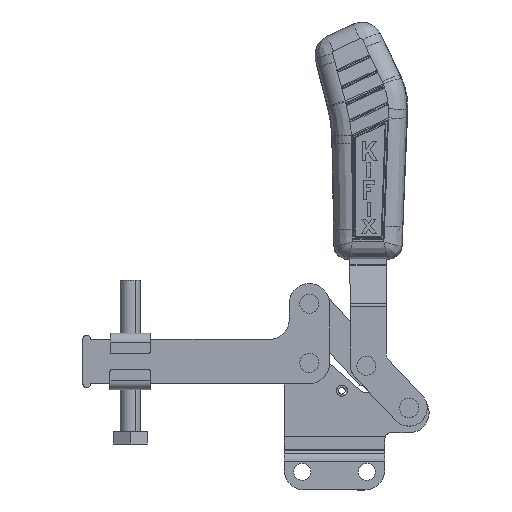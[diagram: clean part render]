
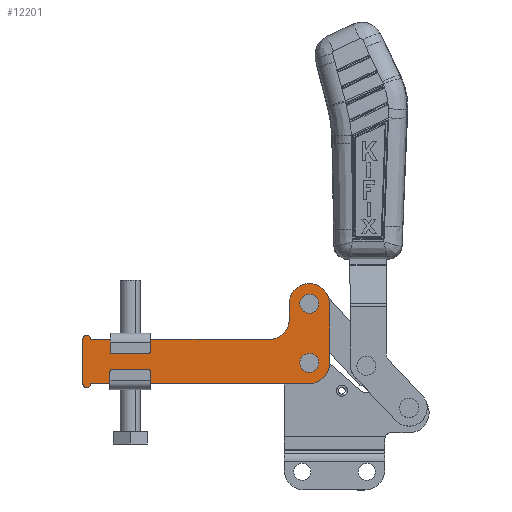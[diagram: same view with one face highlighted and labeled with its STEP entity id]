
A CAD part, top view. The second image highlights one B-rep face of the part: STEP entity #12201.
In plain terms, the highlighted planar face has unit normal (0, 0, 1).
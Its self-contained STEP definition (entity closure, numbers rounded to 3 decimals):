
#18 = VERTEX_POINT ( 'NONE', #25642 ) ;
#53 = DIRECTION ( 'NONE',  ( 1., 0., 0. ) ) ;
#94 = ORIENTED_EDGE ( 'NONE', *, *, #15367, .T. ) ;
#234 = EDGE_CURVE ( 'NONE', #16773, #25260, #25086, .T. ) ;
#1081 = EDGE_CURVE ( 'NONE', #2474, #13742, #24422, .T. ) ;
#1086 = VERTEX_POINT ( 'NONE', #13204 ) ;
#1112 = DIRECTION ( 'NONE',  ( -1., 0., 0. ) ) ;
#1170 = CARTESIAN_POINT ( 'NONE',  ( 79.5, -1., 0. ) ) ;
#2334 = DIRECTION ( 'NONE',  ( 0., 0., -1. ) ) ;
#2474 = VERTEX_POINT ( 'NONE', #23625 ) ;
#2840 = CARTESIAN_POINT ( 'NONE',  ( 69.5, 28.7, 0. ) ) ;
#3051 = ORIENTED_EDGE ( 'NONE', *, *, #1081, .F. ) ;
#3608 = DIRECTION ( 'NONE',  ( 0., 0., 1. ) ) ;
#4083 = AXIS2_PLACEMENT_3D ( 'NONE', #2840, #16814, #4828 ) ;
#4335 = VECTOR ( 'NONE', #13234, 1000. ) ;
#4828 = DIRECTION ( 'NONE',  ( 1., 0., 0. ) ) ;
#4859 = CARTESIAN_POINT ( 'NONE',  ( -43., -11., 0. ) ) ;
#5067 = AXIS2_PLACEMENT_3D ( 'NONE', #20661, #8648, #22686 ) ;
#5260 = AXIS2_PLACEMENT_3D ( 'NONE', #10345, #24404, #12335 ) ;
#5859 = CARTESIAN_POINT ( 'NONE',  ( 69.5, -11., 0. ) ) ;
#6230 = ORIENTED_EDGE ( 'NONE', *, *, #18577, .T. ) ;
#6334 = EDGE_CURVE ( 'NONE', #21229, #1086, #14094, .T. ) ;
#6684 = EDGE_CURVE ( 'NONE', #23781, #12890, #14397, .T. ) ;
#6852 = CIRCLE ( 'NONE', #4083, 10. ) ;
#7015 = CARTESIAN_POINT ( 'NONE',  ( 69.5, -0.7, 0. ) ) ;
#7378 = EDGE_CURVE ( 'NONE', #16561, #23781, #14368, .T. ) ;
#7942 = EDGE_CURVE ( 'NONE', #13173, #20795, #6852, .T. ) ;
#8064 = CARTESIAN_POINT ( 'NONE',  ( 49.5, 21., 0. ) ) ;
#8105 = EDGE_CURVE ( 'NONE', #18, #13173, #9668, .T. ) ;
#8648 = DIRECTION ( 'NONE',  ( 0., 0., 1. ) ) ;
#8682 = ORIENTED_EDGE ( 'NONE', *, *, #6684, .T. ) ;
#8774 = VERTEX_POINT ( 'NONE', #14568 ) ;
#8894 = DIRECTION ( 'NONE',  ( 0., 0., 1. ) ) ;
#9009 = DIRECTION ( 'NONE',  ( 1., 0., 0. ) ) ;
#9077 = EDGE_LOOP ( 'NONE', ( #3051, #17264 ) ) ;
#9375 = CARTESIAN_POINT ( 'NONE',  ( 69.5, 28.7, 0. ) ) ;
#9403 = CARTESIAN_POINT ( 'NONE',  ( 59.5, 28.7, 0. ) ) ;
#9579 = FACE_BOUND ( 'NONE', #14186, .T. ) ;
#9668 = LINE ( 'NONE', #1170, #4335 ) ;
#9767 = CARTESIAN_POINT ( 'NONE',  ( -41., 11., 0. ) ) ;
#9936 = CARTESIAN_POINT ( 'NONE',  ( 4., -11., 0. ) ) ;
#10048 = ORIENTED_EDGE ( 'NONE', *, *, #13069, .T. ) ;
#10078 = DIRECTION ( 'NONE',  ( 1., 0., 0. ) ) ;
#10171 = AXIS2_PLACEMENT_3D ( 'NONE', #9767, #23810, #11745 ) ;
#10182 = CARTESIAN_POINT ( 'NONE',  ( -39., -11., 0. ) ) ;
#10286 = PLANE ( 'NONE',  #16985 ) ;
#10345 = CARTESIAN_POINT ( 'NONE',  ( 69.5, -0.7, 0. ) ) ;
#11365 = DIRECTION ( 'NONE',  ( 1., 0., 0. ) ) ;
#11745 = DIRECTION ( 'NONE',  ( -1., 0., 0. ) ) ;
#11776 = CARTESIAN_POINT ( 'NONE',  ( 59.5, 21., 0. ) ) ;
#12201 = ADVANCED_FACE ( 'NONE', ( #9579, #14876, #25607 ), #10286, .F. ) ;
#12209 = DIRECTION ( 'NONE',  ( 0., -1., 0. ) ) ;
#12335 = DIRECTION ( 'NONE',  ( 1., 0., 0. ) ) ;
#12553 = LINE ( 'NONE', #9403, #17248 ) ;
#12590 = EDGE_CURVE ( 'NONE', #25260, #16773, #13931, .T. ) ;
#12890 = VERTEX_POINT ( 'NONE', #5859 ) ;
#12974 = VECTOR ( 'NONE', #1112, 1000. ) ;
#13069 = EDGE_CURVE ( 'NONE', #1086, #21999, #18294, .T. ) ;
#13173 = VERTEX_POINT ( 'NONE', #13523 ) ;
#13190 = AXIS2_PLACEMENT_3D ( 'NONE', #15566, #3608, #17594 ) ;
#13204 = CARTESIAN_POINT ( 'NONE',  ( 49.5, 11., 0. ) ) ;
#13234 = DIRECTION ( 'NONE',  ( 0., 1., 0. ) ) ;
#13343 = CARTESIAN_POINT ( 'NONE',  ( 65.5, -0.7, 0. ) ) ;
#13523 = CARTESIAN_POINT ( 'NONE',  ( 79.5, 28.7, 0. ) ) ;
#13565 = ORIENTED_EDGE ( 'NONE', *, *, #6334, .T. ) ;
#13742 = VERTEX_POINT ( 'NONE', #18128 ) ;
#13931 = CIRCLE ( 'NONE', #5260, 4. ) ;
#14094 = CIRCLE ( 'NONE', #22844, 10. ) ;
#14141 = EDGE_LOOP ( 'NONE', ( #94, #14412, #22333, #8682, #22097, #14209, #23124, #6230, #13565, #10048 ) ) ;
#14186 = EDGE_LOOP ( 'NONE', ( #23890, #17807 ) ) ;
#14209 = ORIENTED_EDGE ( 'NONE', *, *, #8105, .T. ) ;
#14368 = CIRCLE ( 'NONE', #5067, 2. ) ;
#14397 = LINE ( 'NONE', #9936, #23219 ) ;
#14412 = ORIENTED_EDGE ( 'NONE', *, *, #14906, .T. ) ;
#14568 = CARTESIAN_POINT ( 'NONE',  ( -43., 11., 0. ) ) ;
#14876 = FACE_BOUND ( 'NONE', #9077, .T. ) ;
#14906 = EDGE_CURVE ( 'NONE', #8774, #16561, #21175, .T. ) ;
#15367 = EDGE_CURVE ( 'NONE', #21999, #8774, #25595, .T. ) ;
#15566 = CARTESIAN_POINT ( 'NONE',  ( 69.5, 28.7, 0. ) ) ;
#15814 = VECTOR ( 'NONE', #12209, 1000. ) ;
#15825 = EDGE_CURVE ( 'NONE', #13742, #2474, #24001, .T. ) ;
#16218 = CARTESIAN_POINT ( 'NONE',  ( 2., 11., 0. ) ) ;
#16306 = DIRECTION ( 'NONE',  ( -1., 0., 0. ) ) ;
#16561 = VERTEX_POINT ( 'NONE', #4859 ) ;
#16773 = VERTEX_POINT ( 'NONE', #13343 ) ;
#16814 = DIRECTION ( 'NONE',  ( 0., 0., 1. ) ) ;
#16985 = AXIS2_PLACEMENT_3D ( 'NONE', #16218, #2334, #16306 ) ;
#17123 = AXIS2_PLACEMENT_3D ( 'NONE', #9375, #23412, #11365 ) ;
#17248 = VECTOR ( 'NONE', #25481, 1000. ) ;
#17264 = ORIENTED_EDGE ( 'NONE', *, *, #15825, .F. ) ;
#17283 = AXIS2_PLACEMENT_3D ( 'NONE', #7015, #21023, #9009 ) ;
#17594 = DIRECTION ( 'NONE',  ( 1., 0., 0. ) ) ;
#17807 = ORIENTED_EDGE ( 'NONE', *, *, #234, .F. ) ;
#18128 = CARTESIAN_POINT ( 'NONE',  ( 65.5, 28.7, 0. ) ) ;
#18197 = CARTESIAN_POINT ( 'NONE',  ( 59.5, 28.7, 0. ) ) ;
#18294 = LINE ( 'NONE', #25157, #12974 ) ;
#18577 = EDGE_CURVE ( 'NONE', #20795, #21229, #12553, .T. ) ;
#20661 = CARTESIAN_POINT ( 'NONE',  ( -41., -11., 0. ) ) ;
#20795 = VERTEX_POINT ( 'NONE', #18197 ) ;
#20893 = CARTESIAN_POINT ( 'NONE',  ( 69.5, -1., 0. ) ) ;
#21023 = DIRECTION ( 'NONE',  ( 0., 0., 1. ) ) ;
#21175 = LINE ( 'NONE', #24281, #15814 ) ;
#21229 = VERTEX_POINT ( 'NONE', #11776 ) ;
#21795 = EDGE_CURVE ( 'NONE', #12890, #18, #25100, .T. ) ;
#21999 = VERTEX_POINT ( 'NONE', #25671 ) ;
#22097 = ORIENTED_EDGE ( 'NONE', *, *, #21795, .T. ) ;
#22108 = DIRECTION ( 'NONE',  ( 0., 0., -1. ) ) ;
#22333 = ORIENTED_EDGE ( 'NONE', *, *, #7378, .T. ) ;
#22686 = DIRECTION ( 'NONE',  ( 1., 0., 0. ) ) ;
#22813 = CARTESIAN_POINT ( 'NONE',  ( 73.5, -0.7, 0. ) ) ;
#22844 = AXIS2_PLACEMENT_3D ( 'NONE', #8064, #22108, #10078 ) ;
#22932 = DIRECTION ( 'NONE',  ( 1., 0., 0. ) ) ;
#23124 = ORIENTED_EDGE ( 'NONE', *, *, #7942, .T. ) ;
#23219 = VECTOR ( 'NONE', #53, 1000. ) ;
#23412 = DIRECTION ( 'NONE',  ( 0., 0., 1. ) ) ;
#23625 = CARTESIAN_POINT ( 'NONE',  ( 73.5, 28.7, 0. ) ) ;
#23781 = VERTEX_POINT ( 'NONE', #10182 ) ;
#23810 = DIRECTION ( 'NONE',  ( 0., 0., 1. ) ) ;
#23890 = ORIENTED_EDGE ( 'NONE', *, *, #12590, .F. ) ;
#24001 = CIRCLE ( 'NONE', #13190, 4. ) ;
#24281 = CARTESIAN_POINT ( 'NONE',  ( -43., 11., 0. ) ) ;
#24404 = DIRECTION ( 'NONE',  ( 0., 0., 1. ) ) ;
#24422 = CIRCLE ( 'NONE', #17123, 4. ) ;
#25086 = CIRCLE ( 'NONE', #17283, 4. ) ;
#25100 = CIRCLE ( 'NONE', #25870, 10. ) ;
#25157 = CARTESIAN_POINT ( 'NONE',  ( 49.5, 11., 0. ) ) ;
#25260 = VERTEX_POINT ( 'NONE', #22813 ) ;
#25481 = DIRECTION ( 'NONE',  ( 0., -1., 0. ) ) ;
#25595 = CIRCLE ( 'NONE', #10171, 2. ) ;
#25607 = FACE_OUTER_BOUND ( 'NONE', #14141, .T. ) ;
#25642 = CARTESIAN_POINT ( 'NONE',  ( 79.5, -1., 0. ) ) ;
#25671 = CARTESIAN_POINT ( 'NONE',  ( -39., 11., 0. ) ) ;
#25870 = AXIS2_PLACEMENT_3D ( 'NONE', #20893, #8894, #22932 ) ;
